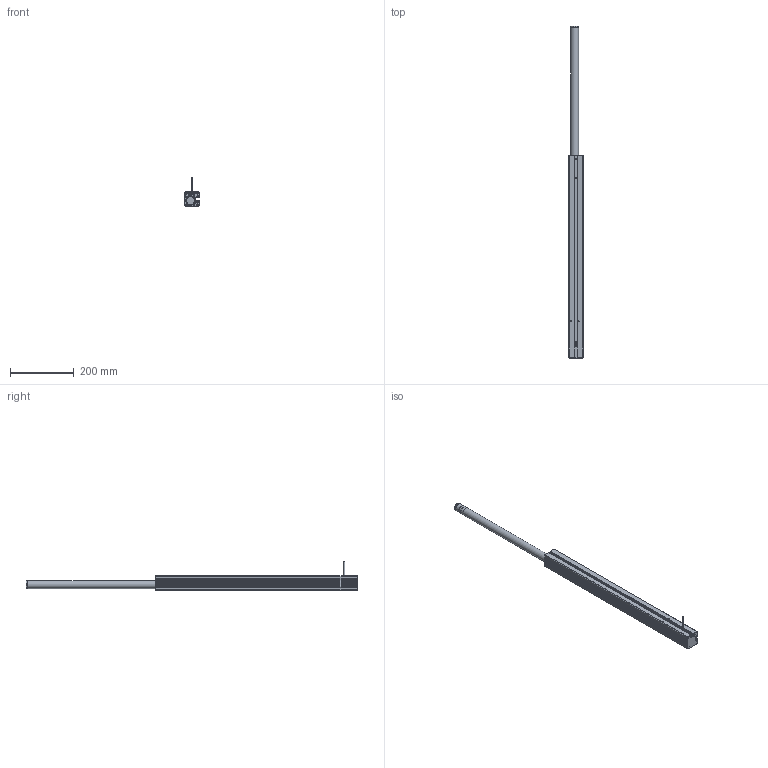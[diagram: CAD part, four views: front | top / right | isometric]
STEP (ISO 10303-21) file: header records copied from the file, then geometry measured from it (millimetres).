
FILE_DESCRIPTION(/* description */ ('Unknown'),/* implementation_level */ '2;1');
FILE_NAME(/* name */ '306.00414_04 Tischbein TQ 1440 A640_ausgefahren',/* time_stamp */ '2020-02-05T11:05:58+01:00',/* author */ ('Unknown'),/* organization */ ('Unknown'),/* preprocessor_version */ 'ST-DEVELOPER v16.7',/* originating_system */ 'DEX',/* authorisation */ $);
FILE_SCHEMA (('AUTOMOTIVE_DESIGN {1 0 10303 214 3 1 1}'));
Length unit declared in the file: millimetre
Products named in the file (13): 306.00414; 142.00014; 119.00224; 122.00005; 142.00020; 113.00002_70mm; 124.00125; 128.00040; 106.00404_oa_0; 107.00404_oa_1; 115.00007_oa_2; 123.00104; 125.00051
Assembly tree (16 placements, depth 4):
  306.00414
    142.00014  x2
    119.00224
    122.00005
    142.00020  x4
    113.00002_70mm
    124.00125
    128.00040
    106.00404_oa_0
      107.00404_oa_1
        115.00007_oa_2
      123.00104
      125.00051
Bounding box: 45 x 1040 x 90 mm (x, y, z)
Volume: 534365.9 mm3; surface area: 444487.8 mm2
Topology: 13 solids, 13 shells, 1247 faces, 3580 edges, 2303 vertices
Faces by surface type: cylinder 583, plane 517, bspline 44, cone 39, torus 36, sphere 28
Full cylindrical faces by diameter (mm): 2.2 x1, 2.5 x12, 3 x4, 4 x10, 6.647 x1, 8 x1, 8.376 x2, 11.5 x1, 16 x1, 17.3 x1, 19 x1, 20.8 x3, 21 x1, 24 x1, 25 x4, 30 x2
Entity records: 41092 total; most frequent: CARTESIAN_POINT 8956, ORIENTED_EDGE 6776, DIRECTION 6566, EDGE_CURVE 3388, AXIS2_PLACEMENT_3D 2352, VERTEX_POINT 2225, LINE 1862, VECTOR 1862
